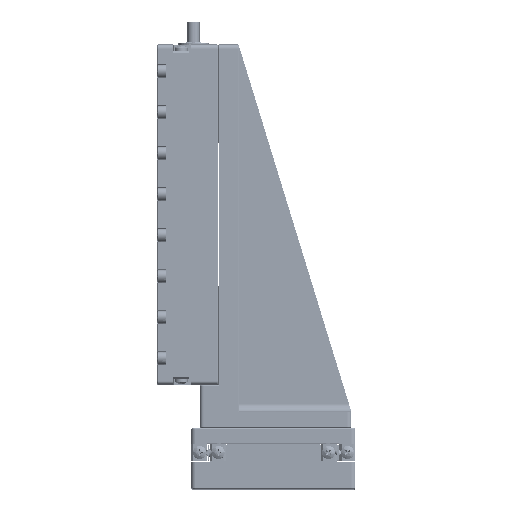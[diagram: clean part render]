
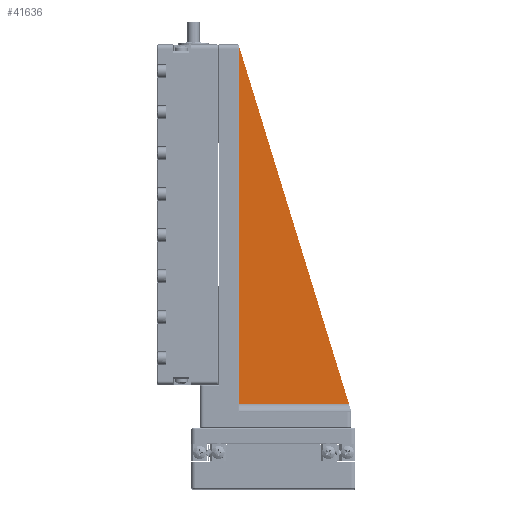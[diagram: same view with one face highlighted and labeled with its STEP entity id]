
A CAD part, top view. The second image highlights one B-rep face of the part: STEP entity #41636.
In plain terms, the highlighted planar face has unit normal (0, 0, 1).
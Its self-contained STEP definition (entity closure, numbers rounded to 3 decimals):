
#4982 = VERTEX_POINT ( 'NONE', #163444 ) ;
#9273 = CARTESIAN_POINT ( 'NONE',  ( -2.169, 11.517, 91.713 ) ) ;
#26999 = ORIENTED_EDGE ( 'NONE', *, *, #119879, .F. ) ;
#30447 = EDGE_CURVE ( 'NONE', #4982, #118491, #112168, .T. ) ;
#36663 = ORIENTED_EDGE ( 'NONE', *, *, #187589, .T. ) ;
#38081 = EDGE_CURVE ( 'NONE', #4982, #131535, #111985, .T. ) ;
#41459 = CARTESIAN_POINT ( 'NONE',  ( -11.169, 105.017, 91.713 ) ) ;
#41636 = ADVANCED_FACE ( 'NONE', ( #123866 ), #149208, .F. ) ;
#45896 = LINE ( 'NONE', #55128, #109159 ) ;
#54817 = VERTEX_POINT ( 'NONE', #131199 ) ;
#55128 = CARTESIAN_POINT ( 'NONE',  ( -11.169, 105.017, 91.713 ) ) ;
#56052 = VECTOR ( 'NONE', #90017, 1000. ) ;
#56130 = DIRECTION ( 'NONE',  ( -1., 0., 0. ) ) ;
#64518 = VECTOR ( 'NONE', #186424, 1000. ) ;
#70808 = VECTOR ( 'NONE', #136644, 1000. ) ;
#72540 = ORIENTED_EDGE ( 'NONE', *, *, #38081, .T. ) ;
#72949 = CARTESIAN_POINT ( 'NONE',  ( 16.331, 17.517, 91.713 ) ) ;
#88564 = DIRECTION ( 'NONE',  ( 1., 0., 0. ) ) ;
#90017 = DIRECTION ( 'NONE',  ( 0.707, -0.707, 0. ) ) ;
#92007 = CARTESIAN_POINT ( 'NONE',  ( 39.981, 53.667, 91.713 ) ) ;
#96433 = EDGE_LOOP ( 'NONE', ( #26999, #36663, #115335, #111860, #72540 ) ) ;
#101395 = LINE ( 'NONE', #72949, #186273 ) ;
#108814 = CARTESIAN_POINT ( 'NONE',  ( -11.169, 105.017, 91.713 ) ) ;
#109159 = VECTOR ( 'NONE', #131865, 1000. ) ;
#111860 = ORIENTED_EDGE ( 'NONE', *, *, #30447, .F. ) ;
#111985 = LINE ( 'NONE', #92007, #56052 ) ;
#112168 = LINE ( 'NONE', #108814, #70808 ) ;
#115020 = VERTEX_POINT ( 'NONE', #177750 ) ;
#115335 = ORIENTED_EDGE ( 'NONE', *, *, #143107, .F. ) ;
#118491 = VERTEX_POINT ( 'NONE', #41459 ) ;
#119879 = EDGE_CURVE ( 'NONE', #54817, #131535, #45896, .T. ) ;
#123866 = FACE_OUTER_BOUND ( 'NONE', #96433, .T. ) ;
#123943 = CARTESIAN_POINT ( 'NONE',  ( 16.331, 15.517, 91.713 ) ) ;
#131199 = CARTESIAN_POINT ( 'NONE',  ( -11.169, 17.517, 91.713 ) ) ;
#131535 = VERTEX_POINT ( 'NONE', #201072 ) ;
#131865 = DIRECTION ( 'NONE',  ( 0., 1., 0. ) ) ;
#134893 = DIRECTION ( 'NONE',  ( 0., 0., -1. ) ) ;
#136644 = DIRECTION ( 'NONE',  ( 1., 0., 0. ) ) ;
#139264 = AXIS2_PLACEMENT_3D ( 'NONE', #9273, #134893, #56130 ) ;
#143107 = EDGE_CURVE ( 'NONE', #118491, #115020, #176382, .T. ) ;
#149208 = PLANE ( 'NONE',  #139264 ) ;
#163444 = CARTESIAN_POINT ( 'NONE',  ( -11.369, 105.017, 91.713 ) ) ;
#176382 = LINE ( 'NONE', #123943, #64518 ) ;
#177750 = CARTESIAN_POINT ( 'NONE',  ( 15.717, 17.517, 91.713 ) ) ;
#186273 = VECTOR ( 'NONE', #88564, 1000. ) ;
#186424 = DIRECTION ( 'NONE',  ( 0.294, -0.956, 0. ) ) ;
#187589 = EDGE_CURVE ( 'NONE', #54817, #115020, #101395, .T. ) ;
#201072 = CARTESIAN_POINT ( 'NONE',  ( -11.169, 104.817, 91.713 ) ) ;
